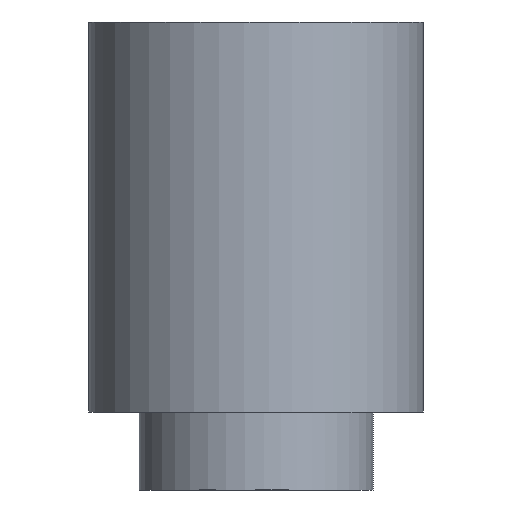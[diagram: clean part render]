
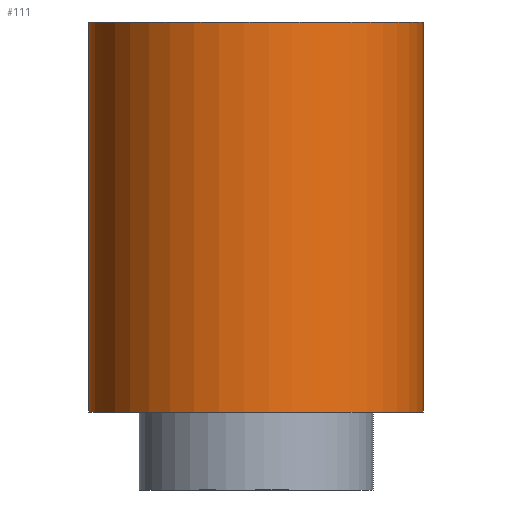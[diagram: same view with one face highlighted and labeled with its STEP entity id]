
A CAD part, front view. The second image highlights one B-rep face of the part: STEP entity #111.
In plain terms, the highlighted free-form (B-spline) face has degree [2, 1] with [7, 2] control points.
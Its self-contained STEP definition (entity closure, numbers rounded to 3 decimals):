
#92 = EDGE_CURVE('',#93,#93,#95,.T.);
#93 = VERTEX_POINT('',#94);
#94 = CARTESIAN_POINT('',(-3.,0.,0.));
#95 = ( BOUNDED_CURVE() B_SPLINE_CURVE(2,(#96,#97,#98,#99,#100,#101,#102
),.UNSPECIFIED.,.T.,.F.) B_SPLINE_CURVE_WITH_KNOTS((1,2,2,2,2,1),(
    -2.094,0.,2.094,4.189,6.283,
8.378),.UNSPECIFIED.) CURVE() GEOMETRIC_REPRESENTATION_ITEM() 
RATIONAL_B_SPLINE_CURVE((1.,0.5,1.,0.5,1.,0.5,1.)) REPRESENTATION_ITEM(
  '') );
#96 = CARTESIAN_POINT('',(-3.,0.,0.));
#97 = CARTESIAN_POINT('',(-3.,5.196,0.));
#98 = CARTESIAN_POINT('',(1.5,2.598,0.));
#99 = CARTESIAN_POINT('',(6.,0.,0.));
#100 = CARTESIAN_POINT('',(1.5,-2.598,0.));
#101 = CARTESIAN_POINT('',(-3.,-5.196,0.));
#102 = CARTESIAN_POINT('',(-3.,0.,0.));
#111 = ADVANCED_FACE('',(#112),#133,.T.);
#112 = FACE_BOUND('',#113,.T.);
#113 = EDGE_LOOP('',(#114,#126,#131,#132));
#114 = ORIENTED_EDGE('',*,*,#115,.T.);
#115 = EDGE_CURVE('',#116,#116,#118,.T.);
#116 = VERTEX_POINT('',#117);
#117 = CARTESIAN_POINT('',(-3.,0.,7.));
#118 = ( BOUNDED_CURVE() B_SPLINE_CURVE(2,(#119,#120,#121,#122,#123,#124
,#125),.UNSPECIFIED.,.T.,.F.) B_SPLINE_CURVE_WITH_KNOTS((1,2,2,2,2,1),(
    -2.094,0.,2.094,4.189,6.283,
8.378),.UNSPECIFIED.) CURVE() GEOMETRIC_REPRESENTATION_ITEM() 
RATIONAL_B_SPLINE_CURVE((1.,0.5,1.,0.5,1.,0.5,1.)) REPRESENTATION_ITEM(
  '') );
#119 = CARTESIAN_POINT('',(-3.,0.,7.));
#120 = CARTESIAN_POINT('',(-3.,5.196,7.));
#121 = CARTESIAN_POINT('',(1.5,2.598,7.));
#122 = CARTESIAN_POINT('',(6.,0.,7.));
#123 = CARTESIAN_POINT('',(1.5,-2.598,7.));
#124 = CARTESIAN_POINT('',(-3.,-5.196,7.));
#125 = CARTESIAN_POINT('',(-3.,0.,7.));
#126 = ORIENTED_EDGE('',*,*,#127,.F.);
#127 = EDGE_CURVE('',#93,#116,#128,.T.);
#128 = B_SPLINE_CURVE_WITH_KNOTS('',1,(#129,#130),.UNSPECIFIED.,.F.,.F.,
  (2,2),(1.4,8.4),.PIECEWISE_BEZIER_KNOTS.);
#129 = CARTESIAN_POINT('',(-3.,0.,0.));
#130 = CARTESIAN_POINT('',(-3.,0.,7.));
#131 = ORIENTED_EDGE('',*,*,#92,.F.);
#132 = ORIENTED_EDGE('',*,*,#127,.T.);
#133 = ( BOUNDED_SURFACE() B_SPLINE_SURFACE(2,1,(
    (#134,#135)
    ,(#136,#137)
    ,(#138,#139)
    ,(#140,#141)
    ,(#142,#143)
    ,(#144,#145)
,(#146,#147
    )),.UNSPECIFIED.,.T.,.F.,.F.) B_SPLINE_SURFACE_WITH_KNOTS((1,2,2,2,2
    ,1),(2,2),(-2.094,0.,2.094,4.189,
    6.283,8.378),(1.4,8.4),.UNSPECIFIED.) 
GEOMETRIC_REPRESENTATION_ITEM() RATIONAL_B_SPLINE_SURFACE((
    (1.,1.)
    ,(0.5,0.5)
    ,(1.,1.)
    ,(0.5,0.5)
    ,(1.,1.)
    ,(0.5,0.5)
,(1.,1.))) REPRESENTATION_ITEM('') SURFACE() );
#134 = CARTESIAN_POINT('',(-3.,0.,0.));
#135 = CARTESIAN_POINT('',(-3.,0.,7.));
#136 = CARTESIAN_POINT('',(-3.,-5.196,0.));
#137 = CARTESIAN_POINT('',(-3.,-5.196,7.));
#138 = CARTESIAN_POINT('',(1.5,-2.598,0.));
#139 = CARTESIAN_POINT('',(1.5,-2.598,7.));
#140 = CARTESIAN_POINT('',(6.,0.,0.));
#141 = CARTESIAN_POINT('',(6.,0.,7.));
#142 = CARTESIAN_POINT('',(1.5,2.598,0.));
#143 = CARTESIAN_POINT('',(1.5,2.598,7.));
#144 = CARTESIAN_POINT('',(-3.,5.196,0.));
#145 = CARTESIAN_POINT('',(-3.,5.196,7.));
#146 = CARTESIAN_POINT('',(-3.,0.,0.));
#147 = CARTESIAN_POINT('',(-3.,0.,7.));
